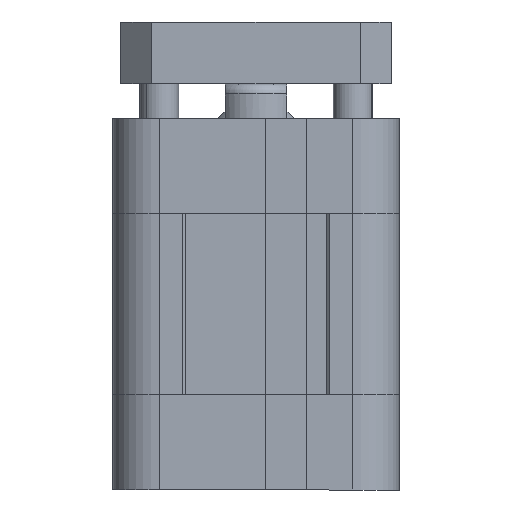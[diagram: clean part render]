
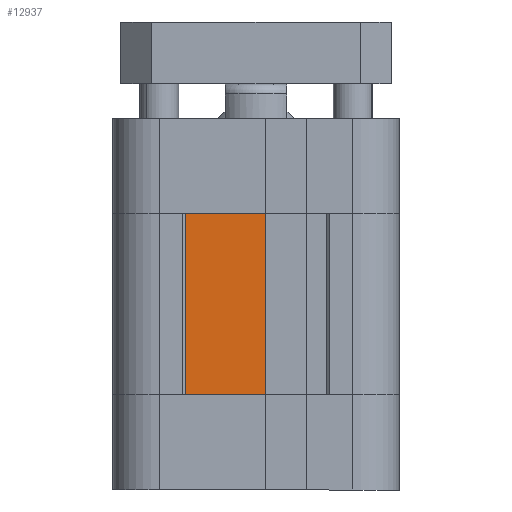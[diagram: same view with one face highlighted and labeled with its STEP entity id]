
A CAD part, front view. The second image highlights one B-rep face of the part: STEP entity #12937.
In plain terms, the highlighted planar face has unit normal (0, -1, 0).
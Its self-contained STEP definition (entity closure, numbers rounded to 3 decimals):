
#4118 = CARTESIAN_POINT ( 'NONE',  ( 9.1, -18.1, 23.4 ) ) ;
#4119 = DIRECTION ( 'NONE',  ( 1., 0., 0. ) ) ;
#4120 = VECTOR ( 'NONE', #4119, 1000. ) ;
#4121 = CARTESIAN_POINT ( 'NONE',  ( -1.25, -18.1, 23.4 ) ) ;
#4122 = LINE ( 'NONE', #4121, #4120 ) ;
#4123 = CARTESIAN_POINT ( 'NONE',  ( -1.25, -18.1, 23.4 ) ) ;
#4601 = CARTESIAN_POINT ( 'NONE',  ( -1.25, -18.1, 0. ) ) ;
#4602 = DIRECTION ( 'NONE',  ( 1., 0., 0. ) ) ;
#4603 = VECTOR ( 'NONE', #4602, 1000. ) ;
#4604 = CARTESIAN_POINT ( 'NONE',  ( -1.25, -18.1, 0. ) ) ;
#4605 = LINE ( 'NONE', #4604, #4603 ) ;
#4606 = CARTESIAN_POINT ( 'NONE',  ( 9.1, -18.1, 0. ) ) ;
#4793 = DIRECTION ( 'NONE',  ( 0., 0., -1. ) ) ;
#4794 = VECTOR ( 'NONE', #4793, 1000. ) ;
#4795 = CARTESIAN_POINT ( 'NONE',  ( 9.1, -18.1, 23.4 ) ) ;
#4796 = LINE ( 'NONE', #4795, #4794 ) ;
#4829 = DIRECTION ( 'NONE',  ( -1., 0., 0. ) ) ;
#4830 = DIRECTION ( 'NONE',  ( 0., 1., 0. ) ) ;
#4831 = CARTESIAN_POINT ( 'NONE',  ( -1.25, -18.1, 23.4 ) ) ;
#4832 = AXIS2_PLACEMENT_3D ( 'NONE', #4831, #4830, #4829 ) ;
#4833 = PLANE ( 'NONE',  #4832 ) ;
#4835 = FACE_OUTER_BOUND ( 'NONE', #12938, .T. ) ;
#4836 = DIRECTION ( 'NONE',  ( 0., 0., -1. ) ) ;
#4837 = VECTOR ( 'NONE', #4836, 1000. ) ;
#4838 = CARTESIAN_POINT ( 'NONE',  ( -1.25, -18.1, 23.4 ) ) ;
#4839 = LINE ( 'NONE', #4838, #4837 ) ;
#12528 = VERTEX_POINT ( 'NONE', #4123 ) ;
#12530 = EDGE_CURVE ( 'NONE', #12528, #12531, #4122, .T. ) ;
#12531 = VERTEX_POINT ( 'NONE', #4118 ) ;
#12802 = VERTEX_POINT ( 'NONE', #4606 ) ;
#12804 = EDGE_CURVE ( 'NONE', #12805, #12802, #4605, .T. ) ;
#12805 = VERTEX_POINT ( 'NONE', #4601 ) ;
#12917 = ORIENTED_EDGE ( 'NONE', *, *, #12918, .F. ) ;
#12918 = EDGE_CURVE ( 'NONE', #12531, #12802, #4796, .T. ) ;
#12919 = ORIENTED_EDGE ( 'NONE', *, *, #12530, .F. ) ;
#12920 = ORIENTED_EDGE ( 'NONE', *, *, #12934, .T. ) ;
#12934 = EDGE_CURVE ( 'NONE', #12528, #12805, #4839, .T. ) ;
#12937 = ADVANCED_FACE ( 'NONE', ( #4835 ), #4833, .F. ) ;
#12938 = EDGE_LOOP ( 'NONE', ( #12939, #12917, #12919, #12920 ) ) ;
#12939 = ORIENTED_EDGE ( 'NONE', *, *, #12804, .T. ) ;
